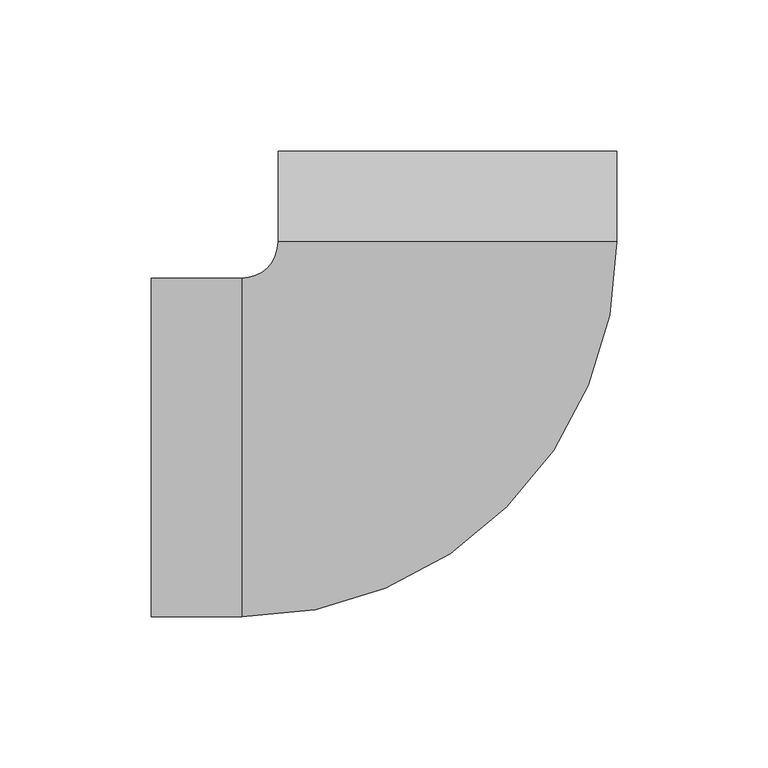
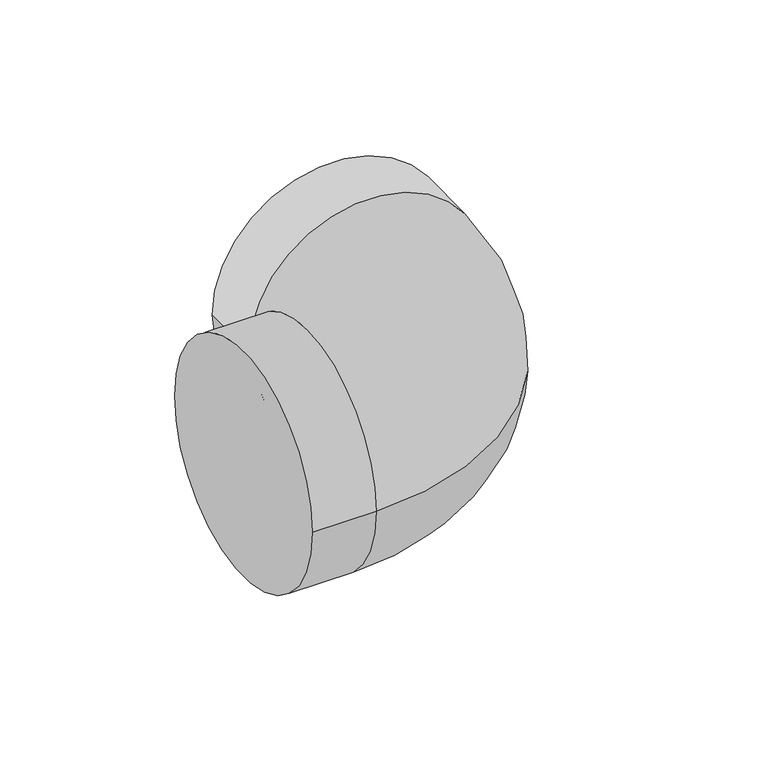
"""IFC4 building model written with IfcOpenShell, lengths in millimetres: pipe fitting geometry, PipeFitting_HTA_CPVC_Elbows : 90mm x 90°."""

import ifcopenshell
import ifcopenshell.guid

model = None  # the IFC model being written
_history = None  # IfcOwnerHistory: only IFC2X3 demands one
_inside = {}  # id of a spatial element -> (the spatial element, [elements in it])
_under = {}  # id of a project, library or spatial element -> (it, [spatial elements below it])
_declared = {}  # id of a project -> (the project, [libraries it declares])
_typed = {}  # id of a type object -> (the type object, [elements of that type])
_made_of = {}  # id of a material, layer set ... -> (it, [elements and type objects made of it])


def new_model(schema):
    """Start an empty IFC model of exactly this schema.

    Asked for "IFC4X3", IfcOpenShell would pick the latest addendum, in which some entities
    have other attributes; the version numbers below select the first issue.
    IFC2X3 requires an IfcOwnerHistory on every rooted entity: one is made here for all.
    """
    global model, _history
    if schema == "IFC4X3":
        model = ifcopenshell.file(schema_version=(4, 3, 0, 0))
    else:
        model = ifcopenshell.file(schema=schema)
    _inside.clear()
    _under.clear()
    _declared.clear()
    _typed.clear()
    _made_of.clear()
    _history = None
    if model.schema == "IFC2X3":
        org = make("IfcOrganization", Name="unknown")
        user = make(
            "IfcPersonAndOrganization",
            ThePerson=make("IfcPerson", FamilyName="unknown"),
            TheOrganization=org,
        )
        app = make(
            "IfcApplication",
            ApplicationDeveloper=org,
            Version="unknown",
            ApplicationFullName="unknown",
            ApplicationIdentifier="unknown",
        )
        _history = make(
            "IfcOwnerHistory",
            OwningUser=user,
            OwningApplication=app,
            ChangeAction="ADDED",
            CreationDate=0,
        )
    return model


def make(cls, **values):
    """One entity of the class cls with the attributes given. An attribute that is None is left unset."""
    return model.create_entity(
        cls, **{name: value for name, value in values.items() if value is not None}
    )


def rooted(cls, **values):
    """An entity with a GlobalId (a new one), such as an element, a storey or a relation."""
    return make(cls, GlobalId=ifcopenshell.guid.new(), OwnerHistory=_history, **values)


def si_unit(unit_type, name, prefix=None):
    """IfcSIUnit, for example si_unit("LENGTHUNIT", "METRE", prefix="MILLI")."""
    return make("IfcSIUnit", UnitType=unit_type, Prefix=prefix, Name=name)


def assignment(units):
    """IfcUnitAssignment: the units of a project."""
    return None if units is None else make("IfcUnitAssignment", Units=units)


def point(xyz):
    """IfcCartesianPoint."""
    return None if xyz is None else make("IfcCartesianPoint", Coordinates=xyz)


def direction(xyz):
    """IfcDirection."""
    return None if xyz is None else make("IfcDirection", DirectionRatios=xyz)


def frame(location, z_axis=None, x_axis=None):
    """IfcAxis2Placement3D, a coordinate frame: its origin and axes. An axis left out is left unset."""
    return make(
        "IfcAxis2Placement3D",
        Location=point(location),
        Axis=direction(z_axis),
        RefDirection=direction(x_axis),
    )


def origin():
    """The frame at (0, 0, 0) with its axes left unset."""
    return frame((0.0, 0.0, 0.0))


def place(relative_to, where):
    """IfcLocalPlacement: puts the frame where relative to a parent placement (None: the world)."""
    return make(
        "IfcLocalPlacement", PlacementRelTo=relative_to, RelativePlacement=where
    )


def context(
    kind, dimensions, precision=None, world=None, true_north=None, identifier=None
):
    """IfcGeometricRepresentationContext, for example the 3D "Model" context."""
    return make(
        "IfcGeometricRepresentationContext",
        ContextIdentifier=identifier,
        ContextType=kind,
        CoordinateSpaceDimension=dimensions,
        Precision=precision,
        WorldCoordinateSystem=world,
        TrueNorth=true_north,
    )


def project(units=None, contexts=None):
    """IfcProject with its units and contexts."""
    return rooted(
        "IfcProject",
        Name="project",
        RepresentationContexts=contexts,
        UnitsInContext=assignment(units),
    )


def spatial(cls, under=None, at=None, **own):
    """A site, building, storey or space (cls), placed at a placement, below another one or the project."""
    s = rooted(cls, ObjectPlacement=at, **own)
    if under is not None:
        _under.setdefault(under.id(), (under, []))[1].append(s)
    return s


def circle_curve(where, radius):
    """IfcCircle in the frame where."""
    return make("IfcCircle", Position=where, Radius=radius)


def ellipse_curve(where, semi_axis1, semi_axis2):
    """IfcEllipse in the frame where."""
    return make(
        "IfcEllipse", Position=where, SemiAxis1=semi_axis1, SemiAxis2=semi_axis2
    )


def trimmed(basis, trim1, trim2, sense, master):
    """IfcTrimmedCurve: the piece of a basis curve between two trims."""
    return make(
        "IfcTrimmedCurve",
        BasisCurve=basis,
        Trim1=trim1,
        Trim2=trim2,
        SenseAgreement=sense,
        MasterRepresentation=master,
    )


def shape(context_of_items, identifier, shape_type, items):
    """IfcShapeRepresentation: the items that make up one representation, for example the "Body"."""
    return make(
        "IfcShapeRepresentation",
        ContextOfItems=context_of_items,
        RepresentationIdentifier=identifier,
        RepresentationType=shape_type,
        Items=items,
    )


def source(mapping_origin, context_of_items, identifier, shape_type, items):
    """IfcRepresentationMap: a shape defined once, which mapped items show again and again."""
    return make(
        "IfcRepresentationMap",
        MappingOrigin=mapping_origin,
        MappedRepresentation=shape(context_of_items, identifier, shape_type, items),
    )


def transform(
    local_origin,
    x_axis=None,
    y_axis=None,
    z_axis=None,
    scale=None,
    scale2=None,
    scale3=None,
    uniform=True,
):
    """IfcCartesianTransformationOperator3D, or its non-uniform kind. x_axis, y_axis, z_axis: its Axis1, 2, 3."""
    if uniform:
        return make(
            "IfcCartesianTransformationOperator3D",
            Axis1=direction(x_axis),
            Axis2=direction(y_axis),
            LocalOrigin=point(local_origin),
            Scale=scale,
            Axis3=direction(z_axis),
        )
    return make(
        "IfcCartesianTransformationOperator3DnonUniform",
        Axis1=direction(x_axis),
        Axis2=direction(y_axis),
        LocalOrigin=point(local_origin),
        Scale=scale,
        Axis3=direction(z_axis),
        Scale2=scale2,
        Scale3=scale3,
    )


def mapped(mapping_source, mapping_target):
    """IfcMappedItem: shows the shape of a source again, moved by a transform."""
    return make(
        "IfcMappedItem", MappingSource=mapping_source, MappingTarget=mapping_target
    )


def made_of(thing, what):
    """Note that an element or type object is made of a material, layer set ...; save() writes the relation."""
    if what is not None:
        _made_of.setdefault(what.id(), (what, []))[1].append(thing)
    return thing


def element(
    cls,
    number,
    at=None,
    inside=None,
    cuts=None,
    type_object=None,
    material=None,
    context=None,
    identifier="Body",
    shape_type=None,
    held_by="IfcProductDefinitionShape",
    body=None,
    shapes=None,
    **own,
):
    """One element of the class cls, such as IfcWall. Its Tag is "e" and its number.

    at: its placement. inside: the storey or other place that contains it. cuts: it is an
    opening in that element (IfcRelVoidsElement). A single representation is given by context,
    identifier, shape_type and body (its items); several are given by shapes. held_by: the class
    of the entity that holds the representations. save() writes the other relations.
    """
    e = rooted(cls, Tag="e%d" % number, ObjectPlacement=at, **own)
    if body is not None:
        shapes = [shape(context, identifier, shape_type, body)]
    if shapes is not None:
        e.Representation = make(held_by, Representations=shapes)
    if inside is not None:
        _inside.setdefault(inside.id(), (inside, []))[1].append(e)
    if cuts is not None:
        rooted(
            "IfcRelVoidsElement", RelatingBuildingElement=cuts, RelatedOpeningElement=e
        )
    if type_object is not None:
        _typed.setdefault(type_object.id(), (type_object, []))[1].append(e)
    return made_of(e, material)


def aggregate(whole, parts):
    """IfcRelAggregates: a whole, such as a stair, and the parts it consists of."""
    return rooted("IfcRelAggregates", RelatingObject=whole, RelatedObjects=parts)


def save(model, path):
    """Write the relations noted so far, then the file.

    IfcRelAggregates (storeys below a building ...), IfcRelContainedInSpatialStructure (elements
    in a storey), IfcRelDefinesByType, IfcRelAssociatesMaterial and IfcRelDeclares: one each for
    every whole, place, type object, material and project.
    """
    for whole, parts in _under.values():
        aggregate(whole, parts)
    for where, things in _inside.values():
        rooted(
            "IfcRelContainedInSpatialStructure",
            RelatedElements=things,
            RelatingStructure=where,
        )
    for kind, things in _typed.values():
        rooted("IfcRelDefinesByType", RelatedObjects=things, RelatingType=kind)
    for what, things in _made_of.values():
        rooted("IfcRelAssociatesMaterial", RelatedObjects=things, RelatingMaterial=what)
    for by, libraries in _declared.values():
        rooted("IfcRelDeclares", RelatingContext=by, RelatedDefinitions=libraries)
    model.write(path)


def plane_surface(at):
    """IfcPlane: the flat surface through the origin of the frame at, square to its z axis."""
    return make("IfcPlane", Position=at)


def cylinder_surface(at, radius):
    """IfcCylindricalSurface: all points at the distance radius from the z axis of the frame at."""
    return make("IfcCylindricalSurface", Position=at, Radius=radius)


def revolved_surface(curve, axis_point, axis_direction):
    """IfcSurfaceOfRevolution: the curve turned about the line through axis_point along axis_direction."""
    return make(
        "IfcSurfaceOfRevolution",
        SweptCurve=make("IfcArbitraryOpenProfileDef", ProfileType="CURVE", Curve=curve),
        AxisPosition=make("IfcAxis1Placement", Location=point(axis_point), Axis=direction(axis_direction)),
    )


def advanced_brep(points, edges, surfaces, faces):
    """IfcAdvancedBrep: a solid bounded by faces that lie on surfaces and meet in shared edges.

    An edge is (start, end): straight between two places in points (the first is 0);
    or (start, end, curve); or (start, end, curve, False) where it runs against its curve.
    A face is (place in surfaces, loops), or (place, loops, False) where it looks against
    its surface's normal. A loop lists edges by number (the first is 1), with a minus sign
    where the edge is run from its end to its start. The first loop is the outer one.
    """
    corners = [point(p) for p in points]
    vertices = [make("IfcVertexPoint", VertexGeometry=c) for c in corners]
    made = []
    for start, end, *more in edges:
        made.append(
            make(
                "IfcEdgeCurve",
                EdgeStart=vertices[start],
                EdgeEnd=vertices[end],
                EdgeGeometry=more[0] if more else make("IfcPolyline", Points=[corners[start], corners[end]]),
                SameSense=more[1] if len(more) > 1 else True,
            )
        )
    hull = []
    for where, loops, *sense in faces:
        bounds = []
        for j, loop in enumerate(loops):
            ring = [make("IfcOrientedEdge", EdgeElement=made[abs(k) - 1], Orientation=k > 0) for k in loop]
            bounds.append(
                make(
                    "IfcFaceOuterBound" if j == 0 else "IfcFaceBound",
                    Bound=make("IfcEdgeLoop", EdgeList=ring),
                    Orientation=True,
                )
            )
        hull.append(make("IfcAdvancedFace", Bounds=bounds, FaceSurface=surfaces[where], SameSense=sense[0] if sense else True))
    return make("IfcAdvancedBrep", Outer=make("IfcClosedShell", CfsFaces=hull))


def pipe_fitting_1ffd08d4(model_context):
    return source(origin(), model_context, "Body", "AdvancedBrep", [
        advanced_brep(
        [(-98.0, -56.0, 0.0), (-98.0, 56.0, 0.0), (-68.0, -56.0, 0.0), (-68.0, 56.0, 0.0), (-56.0, 68.0, 0.0), (56.0, 68.0, 0.0), (56.0, 98.0, 0.0), (-56.0, 98.0, 0.0)],
        [
            (0, 1, circle_curve(frame((-98.0, 0.0, 0.0), z_axis=(-1.0, 0.0, 0.0), x_axis=(0.0, 1.0, 0.0)), 56.0)),
            (1, 0, circle_curve(frame((-98.0, 0.0, 0.0), z_axis=(-1.0, 0.0, 0.0), x_axis=(0.0, 1.0, 0.0)), 56.0)),
            (0, 2),
            (2, 3, circle_curve(frame((-68.0, 0.0, 0.0), z_axis=(-1.0, 0.0, 0.0), x_axis=(0.0, 1.0, 0.0)), 56.0)),
            (3, 1),
            (3, 2, circle_curve(frame((-68.0, 0.0, 0.0), z_axis=(-1.0, 0.0, 0.0), x_axis=(0.0, 1.0, 0.0)), 56.0)),
            (4, 3, circle_curve(frame((-68.0, 68.0, 0.0), z_axis=(0.0, 0.0, -1.0), x_axis=(0.0, -1.0, 0.0)), 12.0)),
            (2, 5, circle_curve(frame((-68.0, 68.0, 0.0), z_axis=(0.0, 0.0, 1.0), x_axis=(0.0, -1.0, 0.0)), 124.0)),
            (5, 4, circle_curve(frame((0.0, 68.0, 0.0), z_axis=(0.0, -1.0, 0.0), x_axis=(-1.0, 0.0, 0.0)), 56.0)),
            (4, 5, circle_curve(frame((0.0, 68.0, 0.0), z_axis=(0.0, -1.0, 0.0), x_axis=(-1.0, 0.0, 0.0)), 56.0)),
            (6, 7, circle_curve(frame((0.0, 98.0, 0.0), z_axis=(0.0, 1.0, 0.0), x_axis=(-1.0, 0.0, 0.0)), 56.0)),
            (7, 6, circle_curve(frame((0.0, 98.0, 0.0), z_axis=(0.0, 1.0, 0.0), x_axis=(-1.0, 0.0, 0.0)), 56.0)),
            (5, 6),
            (7, 4),
        ],
        [
            plane_surface(frame((-98.0, 0.0, 0.0), z_axis=(-1.0, 0.0, 0.0), x_axis=(0.0, 0.0, 1.0))),
            cylinder_surface(frame((-98.0, 0.0, 0.0), z_axis=(-1.0, 0.0, 0.0), x_axis=(0.0, 1.0, 0.0)), 56.0),
            revolved_surface(trimmed(ellipse_curve(frame((-68.0, 0.0, 0.0), z_axis=(-1.0, 0.0, 0.0), x_axis=(0.0, 1.0, 0.0)), 56.0, 56.0), [point((-68.0, -56.0, 0.0))], [point((-68.0, 56.0, 0.0))], True, "CARTESIAN"), (-68.0, 68.0, 0.0), (0.0, 0.0, 1.0)),
            revolved_surface(trimmed(ellipse_curve(frame((-68.0, 0.0, 0.0), z_axis=(-1.0, 0.0, 0.0), x_axis=(0.0, 1.0, 0.0)), 56.0, 56.0), [point((-68.0, 56.0, 0.0))], [point((-68.0, -56.0, 0.0))], True, "CARTESIAN"), (-68.0, 68.0, 0.0), (0.0, 0.0, 1.0)),
            plane_surface(frame((0.0, 98.0, 0.0), z_axis=(0.0, 1.0, 0.0), x_axis=(0.0, 0.0, 1.0))),
            cylinder_surface(frame((0.0, 68.0, 0.0), z_axis=(0.0, -1.0, 0.0), x_axis=(-1.0, 0.0, 0.0)), 56.0),
        ],
        [
            (0, [[1, 2]]),
            (1, [[-1, 3, 4, 5]]),
            (1, [[-2, -5, 6, -3]]),
            (2, [[7, -4, 8, 9]]),
            (3, [[-8, -6, -7, 10]]),
            (4, [[11, 12]]),
            (5, [[-9, 13, -12, 14]]),
            (5, [[-10, -14, -11, -13]]),
        ],
    ),
    ])


if __name__ == "__main__":
    model = new_model("IFC4")
    model_context = context("Model", 3, world=origin())
    ifc_project = project(units=[si_unit("LENGTHUNIT", "METRE", prefix="MILLI")], contexts=[model_context])
    site = spatial("IfcSite", under=ifc_project)
    building = spatial("IfcBuilding", under=site)
    placement = place(None, origin())
    pipe_fitting_shape = pipe_fitting_1ffd08d4(model_context)
    element("IfcPipeFitting", 1, ObjectType="PipeFitting_HTA_CPVC_Elbows : 90mm x 90°", at=placement, inside=building, context=model_context, shape_type="MappedRepresentation", body=[
        mapped(pipe_fitting_shape, transform((0.0, 0.0, 0.0), x_axis=(1.0, 0.0, 0.0), y_axis=(0.0, 1.0, 0.0), z_axis=(0.0, 0.0, 1.0))),
    ])
    save(model, "model.ifc")
